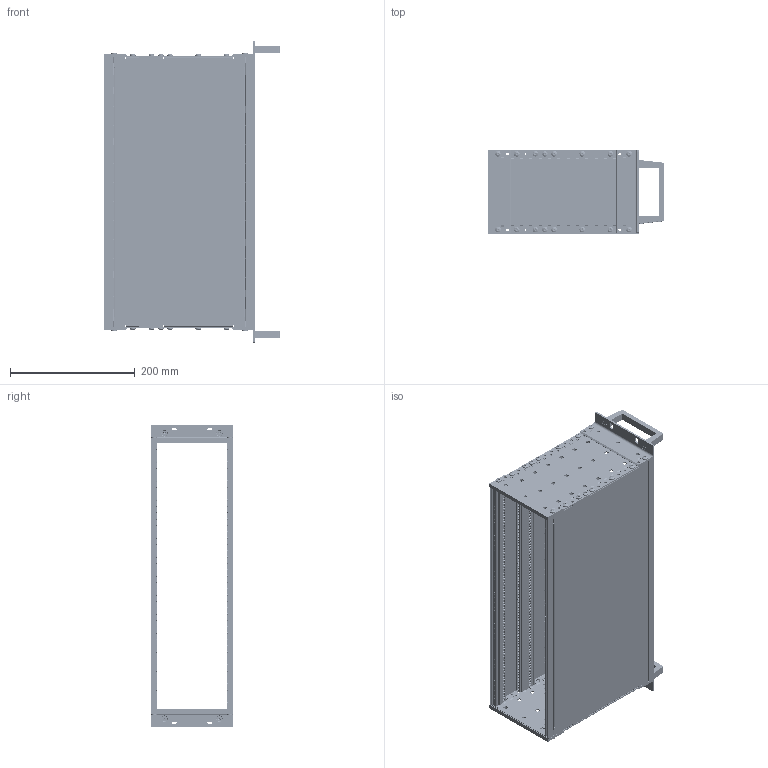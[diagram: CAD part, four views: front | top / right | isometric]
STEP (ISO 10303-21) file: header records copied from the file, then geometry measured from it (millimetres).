
FILE_DESCRIPTION (( 'STEP AP203' ), '1' );
FILE_NAME ('BEK 3U 84TE 235 祥籵瑞.STEP', '2026-02-06T06:34:46', ( '' ), ( '' ), 'SwSTEP 2.0', 'SolidWorks 2013', '' );
FILE_SCHEMA (( 'CONFIG_CONTROL_DESIGN' ));
Length unit declared in the file: millimetre
Products named in the file (90): 1_1_10; 1_39; 1_1_39; 1_16; 1_1_14; 1_17; M5-10參忒隊; 1_14; 1_32; 1_1_4; 1_1_24; 1_11; 1_1_35; 84TE-BT裔啣そ敖銅24560245; 1_1_27; BT-3U前法兰(不锈钢屏蔽簧); 1_6; 1_1_26; 1004229梅花盘头螺钉M4×14钢镀锌带凸点; 1_1_19; BT 裔啣(祥籵瑞); 1_21; 1_22; 1_1_37; 1_1_30; 1_5; 1_30; 1_1_8; 1_12; 1_36; 1_1_3; 1_1_25; 1; 1_1_12; 1_1_40; 84TE邧謂綴褽-34560784; 1_1_31; 1_1; 1_1_6; 1_20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
Assembly tree (143 placements, depth 3):
  BEK 3U 84TE 235 祥籵瑞
    BT 3U 235耜啣  x2
    84TE邧謂綴褽-34560784  x2
    84TE-2X5蹟謂沭1011013  x6
    24560235-BT前梁屏蔽簧  x4
      1_1
      1_1_2
      1_1_3
      1_1_4
      1_1_5
      1_1_6
      1_1_7
      1_1_8
      1_1_9
      1_1_10
      1_1_11
      1_1_12
      1_1_13
      1_1_14
      1_1_15
      1_1_16
      1_1_17
      1_1_18
      1_1_19
      1_1_20
      1_1_21
      1_1_22
      1_1_23
      1_1_24
      1_1_25
      1_1_26
      1_1_27
      1_1_28
      1_1_29
      1_1_30
      1_1_31
      1_1_32
      1_1_33
      1_1_34
      1_1_35
      1_1_36
      1_1_37
      1_1_38
      1_1_39
      1_1_40
      1_1_41
    1013007  x2
    1004229梅花盘头螺钉M4×14钢镀锌带凸点  x16
    1004234-M4×6梅花盘头螺钉（带凸点）  x16
    源參忒3u  x2
    M5-10參忒隊  x4
    84TE-BT裔啣そ敖銅24560245  x4
      1
      1_2
      1_3
      1_4
      1_5
      1_6
      1_8
      1_9
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Bounding box: 282 x 132.55 x 482.6 mm (x, y, z)
Volume: 751340.4 mm3; surface area: 1064094.4 mm2
Topology: 360 solids, 360 shells, 42028 faces, 119808 edges, 78286 vertices
Faces by surface type: plane 22730, cylinder 16438, bspline 1368, torus 920, cone 554, sphere 18
Entity records: 391589 total; most frequent: CARTESIAN_POINT 78500, ORIENTED_EDGE 64598, DIRECTION 61998, EDGE_CURVE 32299, LINE 22176, VECTOR 22176, VERTEX_POINT 21171, AXIS2_PLACEMENT_3D 19911
